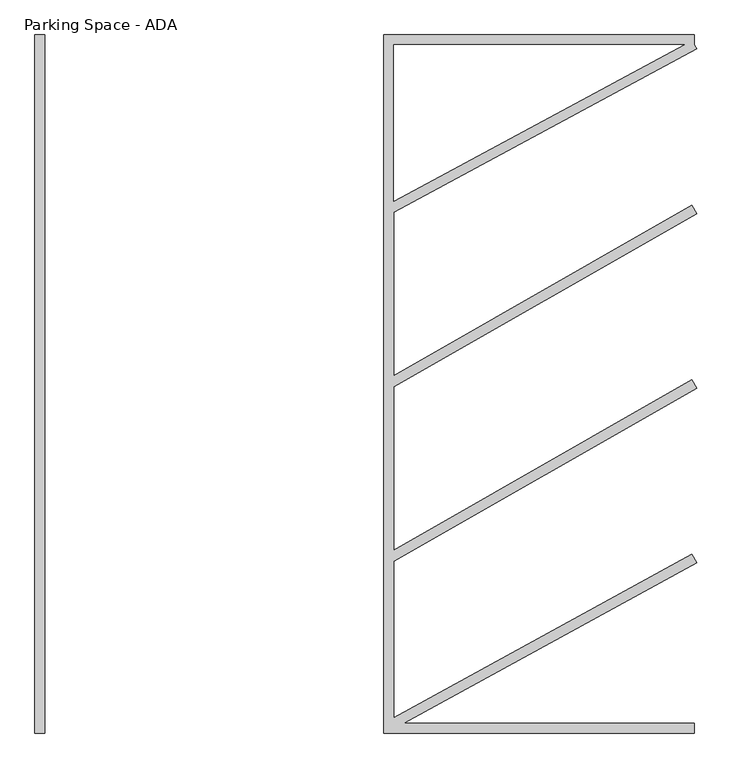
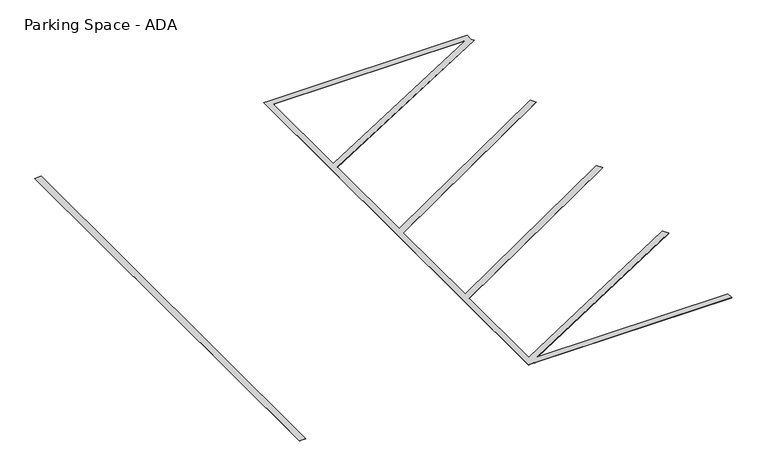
"""IFC4 building model written with IfcOpenShell, lengths in millimetres: proxy geometry, Parking Space - ADA : 9' x 18' (8' Aisle)."""

from ifc_helpers import new_model, si_unit, origin, origin_with_axes, place, context, project, spatial, polyline, outline, extrude, source, transform, mapped, element, save


def parking_space_ada_44d2459f(model_context):
    return source(origin(), model_context, "Body", "SweptSolid", [
        extrude(outline(polyline([(4046.2620479, 859.2253385), (6408.4620479, 859.2253385), (6408.4620479, 783.0253385), (6426.55698, 749.4964937), (4046.2620479, -535.1071205), (4046.2620479, -1818.3215158), (6389.5591543, -479.2945978), (6427.3649414, -545.4547253), (4046.2620479, -1906.0849501), (4046.2620479, -3189.9215158), (6389.5591543, -1850.8945978), (6427.3649414, -1917.0547253), (4046.2620479, -3277.6849501), (4046.2620479, -4507.5218093), (6390.1423254, -3222.1681088), (6426.7817704, -3288.9812143), (4125.4996019, -4550.9746615), (6408.4620479, -4550.9746615), (6408.4620479, -4627.1746615), (4046.2620479, -4627.1746615), (3970.0620479, -4627.1746615), (3970.0620479, 859.2253385), (4046.2620479, 859.2253385)]), holes=[polyline([(6328.2401387, 783.0253385), (4046.2620479, 783.0253385), (4046.2620479, -448.5183931), (6328.2401387, 783.0253385)])]), origin_with_axes(), (0.0, 0.0, 1.0), 1.5875),
        extrude(outline(polyline([(1303.0620479, 859.2253385), (1303.0620479, -4627.1746615), (1226.8620479, -4627.1746615), (1226.8620479, 859.2253385), (1303.0620479, 859.2253385)])), origin_with_axes(), (0.0, 0.0, 1.0), 1.5875),
    ])


if __name__ == "__main__":
    model = new_model("IFC4")
    model_context = context("Model", 3, world=origin())
    ifc_project = project(units=[si_unit("LENGTHUNIT", "METRE", prefix="MILLI")], contexts=[model_context])
    site = spatial("IfcSite", under=ifc_project)
    building = spatial("IfcBuilding", under=site)
    placement = place(None, origin())
    parking_space_ada_shape = parking_space_ada_44d2459f(model_context)
    element("IfcBuildingElementProxy", 1, Name="Parking Space - ADA : 9' x 18' (8' Aisle)", ObjectType="Parking Space - ADA : 9' x 18' (8' Aisle)", at=placement, inside=building, context=model_context, shape_type="MappedRepresentation", body=[
        mapped(parking_space_ada_shape, transform((0.0, 0.0, 0.0), x_axis=(1.0, 0.0, 0.0), y_axis=(0.0, 1.0, 0.0), z_axis=(0.0, 0.0, 1.0))),
    ])
    save(model, "model.ifc")
